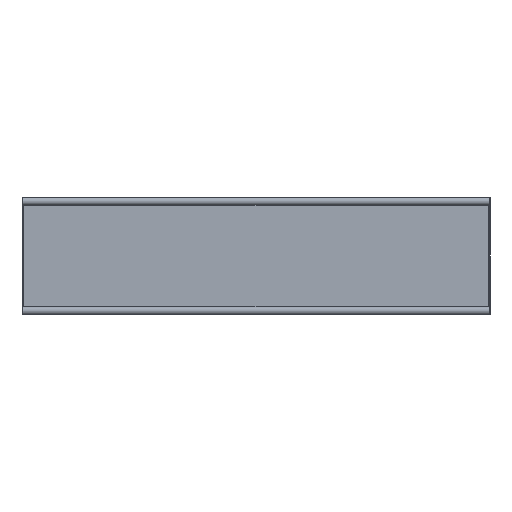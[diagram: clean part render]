
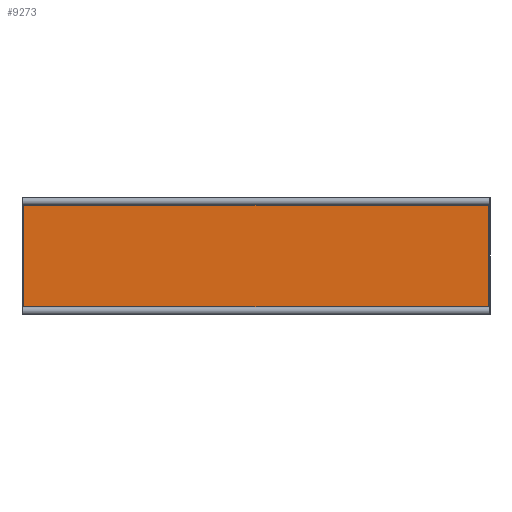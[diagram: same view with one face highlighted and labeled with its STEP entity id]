
A CAD part, front view. The second image highlights one B-rep face of the part: STEP entity #9273.
In plain terms, the highlighted planar face has unit normal (0, -1, 0).
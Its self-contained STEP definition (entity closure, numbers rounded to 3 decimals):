
#23 = AXIS2_PLACEMENT_3D ( 'NONE', #275, #5823, #1076 ) ;
#111 = VERTEX_POINT ( 'NONE', #2516 ) ;
#209 = EDGE_LOOP ( 'NONE', ( #3802, #2184, #7300, #4279, #403, #2806, #6775, #7752 ) ) ;
#275 = CARTESIAN_POINT ( 'NONE',  ( -599., -2., -149. ) ) ;
#366 = CARTESIAN_POINT ( 'NONE',  ( 599., -2., 149. ) ) ;
#401 = LINE ( 'NONE', #4421, #5715 ) ;
#403 = ORIENTED_EDGE ( 'NONE', *, *, #2373, .F. ) ;
#515 = VERTEX_POINT ( 'NONE', #8544 ) ;
#874 = EDGE_CURVE ( 'NONE', #7664, #3538, #3843, .T. ) ;
#932 = CIRCLE ( 'NONE', #2238, 5. ) ;
#1031 = EDGE_CURVE ( 'NONE', #3695, #6465, #5205, .T. ) ;
#1076 = DIRECTION ( 'NONE',  ( 0., 0., 1. ) ) ;
#1124 = DIRECTION ( 'NONE',  ( 0., 0., 1. ) ) ;
#1174 = CARTESIAN_POINT ( 'NONE',  ( 599., -2., -149. ) ) ;
#1184 = EDGE_CURVE ( 'NONE', #6465, #5464, #401, .T. ) ;
#2184 = ORIENTED_EDGE ( 'NONE', *, *, #874, .T. ) ;
#2238 = AXIS2_PLACEMENT_3D ( 'NONE', #366, #3480, #6665 ) ;
#2373 = EDGE_CURVE ( 'NONE', #5464, #5341, #2628, .T. ) ;
#2516 = CARTESIAN_POINT ( 'NONE',  ( 595., -2., 146. ) ) ;
#2531 = EDGE_CURVE ( 'NONE', #5341, #111, #4381, .T. ) ;
#2628 = CIRCLE ( 'NONE', #8621, 5. ) ;
#2806 = ORIENTED_EDGE ( 'NONE', *, *, #1184, .F. ) ;
#3066 = EDGE_CURVE ( 'NONE', #7664, #515, #7831, .T. ) ;
#3081 = VECTOR ( 'NONE', #7421, 1000. ) ;
#3357 = PLANE ( 'NONE',  #6812 ) ;
#3480 = DIRECTION ( 'NONE',  ( 0., -1., 0. ) ) ;
#3526 = CARTESIAN_POINT ( 'NONE',  ( -599., -2., 146. ) ) ;
#3538 = VERTEX_POINT ( 'NONE', #7837 ) ;
#3695 = VERTEX_POINT ( 'NONE', #8889 ) ;
#3802 = ORIENTED_EDGE ( 'NONE', *, *, #3066, .F. ) ;
#3843 = LINE ( 'NONE', #9962, #6354 ) ;
#4017 = CARTESIAN_POINT ( 'NONE',  ( -599., -2., -149. ) ) ;
#4279 = ORIENTED_EDGE ( 'NONE', *, *, #2531, .F. ) ;
#4381 = LINE ( 'NONE', #3526, #7819 ) ;
#4421 = CARTESIAN_POINT ( 'NONE',  ( -596., -2., -149. ) ) ;
#4922 = CARTESIAN_POINT ( 'NONE',  ( -595., -2., 146. ) ) ;
#5083 = LINE ( 'NONE', #7533, #3081 ) ;
#5205 = CIRCLE ( 'NONE', #23, 5. ) ;
#5228 = CARTESIAN_POINT ( 'NONE',  ( 596., -2., -145. ) ) ;
#5259 = DIRECTION ( 'NONE',  ( 0., -1., 0. ) ) ;
#5341 = VERTEX_POINT ( 'NONE', #4922 ) ;
#5464 = VERTEX_POINT ( 'NONE', #6864 ) ;
#5715 = VECTOR ( 'NONE', #7519, 1000. ) ;
#5823 = DIRECTION ( 'NONE',  ( 0., -1., 0. ) ) ;
#5824 = DIRECTION ( 'NONE',  ( 0., -1., 0. ) ) ;
#6083 = DIRECTION ( 'NONE',  ( 0., 0., 1. ) ) ;
#6354 = VECTOR ( 'NONE', #6083, 1000. ) ;
#6465 = VERTEX_POINT ( 'NONE', #7386 ) ;
#6665 = DIRECTION ( 'NONE',  ( 0., 0., 1. ) ) ;
#6728 = CARTESIAN_POINT ( 'NONE',  ( -599., -2., 149. ) ) ;
#6775 = ORIENTED_EDGE ( 'NONE', *, *, #1031, .F. ) ;
#6812 = AXIS2_PLACEMENT_3D ( 'NONE', #4017, #7968, #8729 ) ;
#6829 = EDGE_CURVE ( 'NONE', #3695, #515, #5083, .T. ) ;
#6864 = CARTESIAN_POINT ( 'NONE',  ( -596., -2., 145. ) ) ;
#7300 = ORIENTED_EDGE ( 'NONE', *, *, #10026, .F. ) ;
#7386 = CARTESIAN_POINT ( 'NONE',  ( -596., -2., -145. ) ) ;
#7421 = DIRECTION ( 'NONE',  ( 1., 0., 0. ) ) ;
#7479 = DIRECTION ( 'NONE',  ( 1., 0., 0. ) ) ;
#7519 = DIRECTION ( 'NONE',  ( 0., 0., 1. ) ) ;
#7533 = CARTESIAN_POINT ( 'NONE',  ( -599., -2., -146. ) ) ;
#7664 = VERTEX_POINT ( 'NONE', #5228 ) ;
#7752 = ORIENTED_EDGE ( 'NONE', *, *, #6829, .T. ) ;
#7819 = VECTOR ( 'NONE', #7479, 1000. ) ;
#7831 = CIRCLE ( 'NONE', #8142, 5. ) ;
#7837 = CARTESIAN_POINT ( 'NONE',  ( 596., -2., 145. ) ) ;
#7968 = DIRECTION ( 'NONE',  ( 0., 1., 0. ) ) ;
#8142 = AXIS2_PLACEMENT_3D ( 'NONE', #1174, #5824, #1124 ) ;
#8354 = DIRECTION ( 'NONE',  ( 0., 0., 1. ) ) ;
#8544 = CARTESIAN_POINT ( 'NONE',  ( 595., -2., -146. ) ) ;
#8621 = AXIS2_PLACEMENT_3D ( 'NONE', #6728, #5259, #8354 ) ;
#8729 = DIRECTION ( 'NONE',  ( 0., 0., 1. ) ) ;
#8883 = FACE_OUTER_BOUND ( 'NONE', #209, .T. ) ;
#8889 = CARTESIAN_POINT ( 'NONE',  ( -595., -2., -146. ) ) ;
#9273 = ADVANCED_FACE ( 'NONE', ( #8883 ), #3357, .F. ) ;
#9962 = CARTESIAN_POINT ( 'NONE',  ( 596., -2., -149. ) ) ;
#10026 = EDGE_CURVE ( 'NONE', #111, #3538, #932, .T. ) ;
